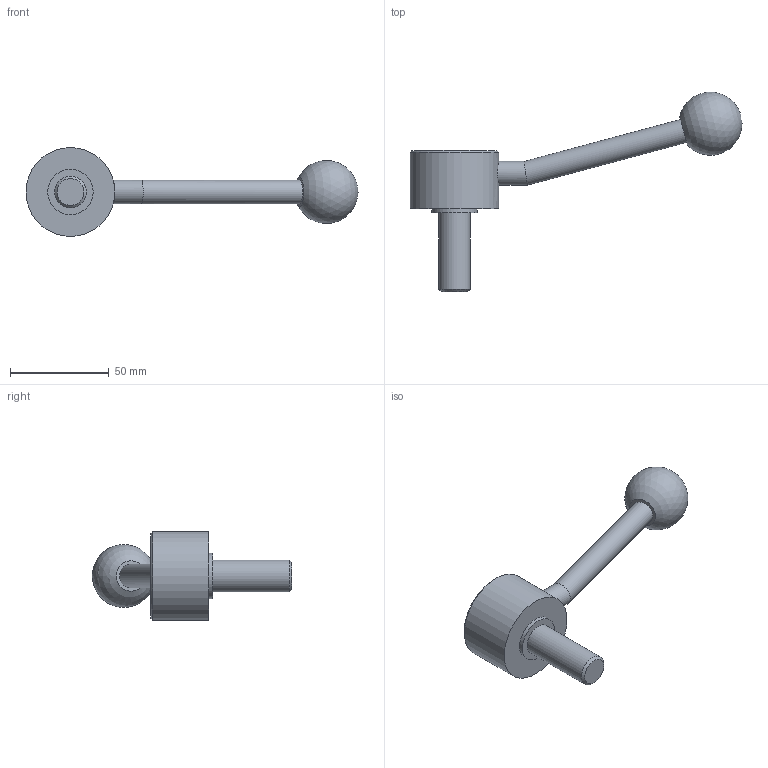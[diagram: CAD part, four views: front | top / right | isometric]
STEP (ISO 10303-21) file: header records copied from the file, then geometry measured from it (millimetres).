
FILE_DESCRIPTION( ( 'STEP AP203' ), '1' );
FILE_NAME( 'C:/Temp/Ganter_Step_05_03_2020/data/2_1/gn_125/gn_125_ms/gn_125_ms_e/Flat Adjustable Lever GN 125-45-M16-40-E.stp', '2020-03-05T11:01:02', ( 'License CC BY-ND 4.0' ), ( 'CADENAS' ), ' ', 'PARTsolutions', ' ' );
FILE_SCHEMA( ( 'CONFIG_CONTROL_DESIGN' ) );
Length unit declared in the file: millimetre
Products named in the file (1): _Flat Adjustable Lever GN 125-45-M16-40-E
Bounding box: 168.04 x 101.06 x 45 mm (x, y, z)
Volume: 83369.9 mm3; surface area: 16033.4 mm2
Topology: 1 solids, 1 shells, 15 faces, 25 edges, 16 vertices
Faces by surface type: cylinder 6, plane 6, cone 2, sphere 1
Full cylindrical faces by diameter (mm): 12 x2, 16 x1, 23 x1, 32 x1, 45 x1
Entity records: 422 total; most frequent: CARTESIAN_POINT 128, DIRECTION 58, AXIS2_PLACEMENT_3D 29, EDGE_LOOP 28, ORIENTED_EDGE 28, FACE_OUTER_BOUND 21, ADVANCED_FACE 15, VERTEX_POINT 15
